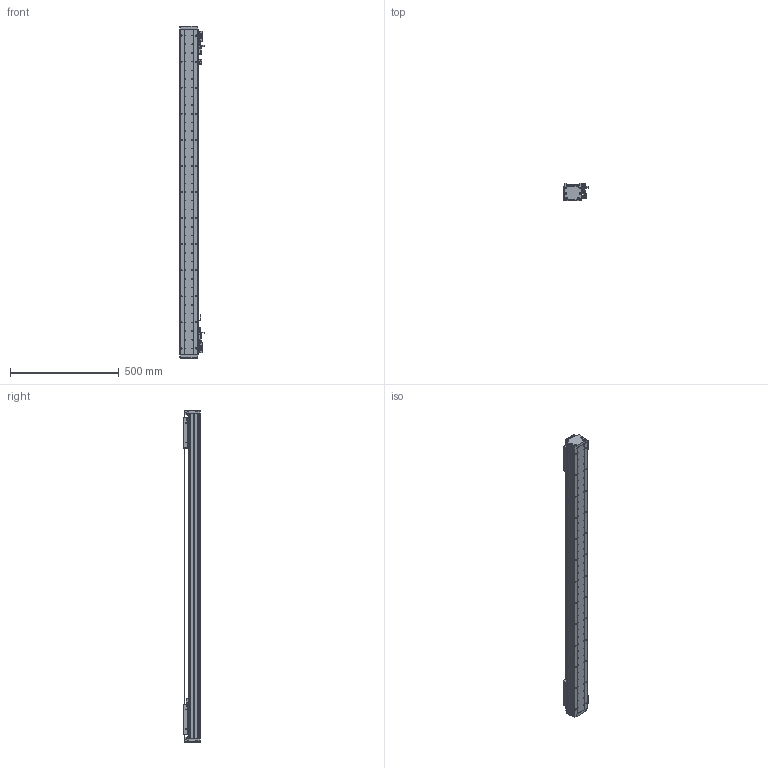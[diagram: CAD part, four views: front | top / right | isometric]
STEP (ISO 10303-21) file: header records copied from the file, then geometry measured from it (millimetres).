
FILE_DESCRIPTION (( 'STEP AP203' ), '1' );
FILE_NAME ('DA-A82-2-B15-T1160-C010-0.2-HG-29580 直线电机.STEP', '2024-11-14T10:41:17', ( '微软用户' ), ( '微软中国' ), 'SwSTEP 2.0', 'SolidWorks 2019', '' );
FILE_SCHEMA (( 'CONFIG_CONTROL_DESIGN' ));
Length unit declared in the file: millimetre
Products named in the file (26): 17322-0001-001-00 笢潔嫖萇嘐隅釱; DA95-GT-T420-00 菁釱詩寢; DMT-010 1米m 0.3M; 21833-0001-003-00 嫖萇覜茼え; DA-A82-2-B15-T1160-C010-0.2-HG-29580 眻盄萇儂; DA82-XJ-00 遣喳砎蝶; DA82-B15-HT-B-03 賑雄怢啣; 23231-0100-001-00 菁釱絳寢; BKM015-W040-C1-TP-DA-0.2 眻盄萇儂; DA60-DMT-DTJ-00 黍杅芛盓殤; DA-A82-GD-DB-H-00 傷啣; DKW-GJ-XJ-00 滅袉砎蝶; 22792-0001-002-00 換覜ん嘐隅啣; 22235-0001-001-00 菁釱_L1500; DA82-YT-B15-HT-B-03 珨极趙賑雄怢啣; 17322-0001-002-00 笢潔嫖萇覜茼え; DA-A82 嶺詩湍郪璃; 曾肣蚐戚 6x6mm; AU82-GD-L1264-00 詩湍裔啣; DA82-GDYK-00 詩湍揤輸; XD-U-02; DA82-B15-DK-01 結輸; BKM01-W040-TRLxxx; DA82-GDLK-00 詩湍嶺輸; pm-y65
Assembly tree (48 placements, depth 3):
  DA-A82-2-B15-T1160-C010-0.2-HG-29580 眻盄萇儂
    23231-0100-001-00 菁釱絳寢
      22235-0001-001-00 菁釱_L1500
      DA95-GT-T420-00 菁釱詩寢  x2
    BKM01-W040-TRLxxx
    DA82-YT-B15-HT-B-03 珨极趙賑雄怢啣
      DA82-B15-HT-B-03 賑雄怢啣
      DA82-B15-DK-01 結輸  x4
      曾肣蚐戚 6x6mm
    DA60-DMT-DTJ-00 黍杅芛盓殤  x2
    DMT-010 1米m 0.3M  x2
    XD-U-02
    pm-y65  x5
    22792-0001-002-00 換覜ん嘐隅啣  x2
    DA-A82 嶺詩湍郪璃
      DA-A82-GD-DB-H-00 傷啣  x2
      DA82-GDYK-00 詩湍揤輸  x2
      AU82-GD-L1264-00 詩湍裔啣
      DA82-XJ-00 遣喳砎蝶  x2
      DA82-GDLK-00 詩湍嶺輸  x2
    21833-0001-003-00 嫖萇覜茼え  x2
    BKM015-W040-C1-TP-DA-0.2 眻盄萇儂  x2
    DA82-YT-B15-HT-B-03 珨极趙賑雄怢啣
      DA82-B15-HT-B-03 賑雄怢啣
      DA82-B15-DK-01 結輸  x4
      曾肣蚐戚 6x6mm
    DKW-GJ-XJ-00 滅袉砎蝶
    17322-0001-001-00 笢潔嫖萇嘐隅釱
    17322-0001-002-00 笢潔嫖萇覜茼え
Bounding box: 111 x 76 x 1528 mm (x, y, z)
Volume: 4645348.2 mm3; surface area: 1425282.7 mm2
Topology: 54 solids, 54 shells, 3457 faces, 9173 edges, 5774 vertices
Faces by surface type: plane 1574, cylinder 1485, cone 372, bspline 16, torus 8, sphere 2
Entity records: 70105 total; most frequent: CARTESIAN_POINT 15460, DIRECTION 10955, ORIENTED_EDGE 10434, EDGE_CURVE 5217, AXIS2_PLACEMENT_3D 4047, VERTEX_POINT 3383, LINE 2861, VECTOR 2861
